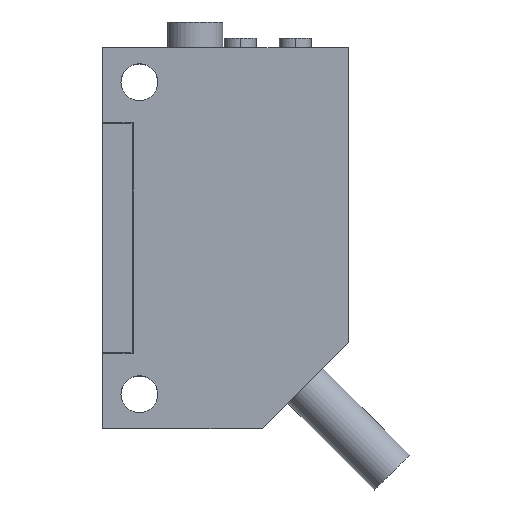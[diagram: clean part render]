
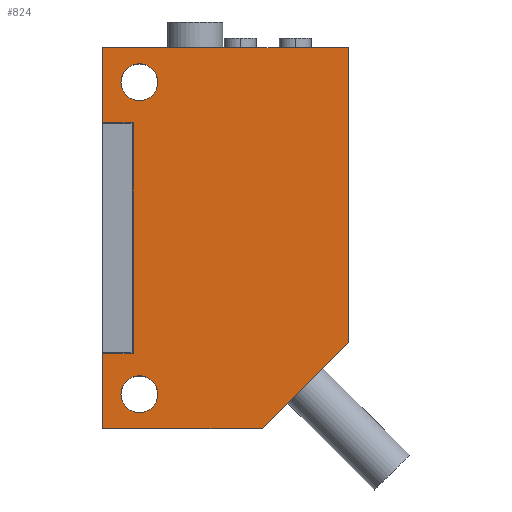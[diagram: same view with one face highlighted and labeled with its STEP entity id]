
A CAD part, top view. The second image highlights one B-rep face of the part: STEP entity #824.
In plain terms, the highlighted planar face has unit normal (0, 0, 1).
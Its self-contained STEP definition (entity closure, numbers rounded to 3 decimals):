
#38 = ORIENTED_EDGE ( 'NONE', *, *, #546, .T. ) ;
#55 = VERTEX_POINT ( 'NONE', #907 ) ;
#72 = EDGE_CURVE ( 'NONE', #100, #1191, #1024, .T. ) ;
#99 = VERTEX_POINT ( 'NONE', #1106 ) ;
#100 = VERTEX_POINT ( 'NONE', #1108 ) ;
#149 = ORIENTED_EDGE ( 'NONE', *, *, #1666, .T. ) ;
#164 = EDGE_CURVE ( 'NONE', #187, #1673, #1388, .T. ) ;
#187 = VERTEX_POINT ( 'NONE', #865 ) ;
#189 = VERTEX_POINT ( 'NONE', #890 ) ;
#190 = ORIENTED_EDGE ( 'NONE', *, *, #72, .F. ) ;
#194 = EDGE_CURVE ( 'NONE', #55, #277, #308, .T. ) ;
#211 = ORIENTED_EDGE ( 'NONE', *, *, #1575, .T. ) ;
#214 = ORIENTED_EDGE ( 'NONE', *, *, #194, .F. ) ;
#225 = EDGE_LOOP ( 'NONE', ( #917, #1287 ) ) ;
#231 = ORIENTED_EDGE ( 'NONE', *, *, #244, .F. ) ;
#243 = VERTEX_POINT ( 'NONE', #459 ) ;
#244 = EDGE_CURVE ( 'NONE', #189, #269, #460, .T. ) ;
#245 = VERTEX_POINT ( 'NONE', #466 ) ;
#253 = VERTEX_POINT ( 'NONE', #485 ) ;
#266 = EDGE_LOOP ( 'NONE', ( #231, #1645, #214, #38, #1626, #389, #149, #211, #1083 ) ) ;
#269 = VERTEX_POINT ( 'NONE', #554 ) ;
#270 = EDGE_LOOP ( 'NONE', ( #1009, #190 ) ) ;
#273 = EDGE_CURVE ( 'NONE', #243, #99, #561, .T. ) ;
#277 = VERTEX_POINT ( 'NONE', #577 ) ;
#308 = LINE ( 'NONE', #309, #310 ) ;
#309 = CARTESIAN_POINT ( 'NONE',  ( -3., 3.3, 5.4 ) ) ;
#310 = VECTOR ( 'NONE', #311, 1000. ) ;
#311 = DIRECTION ( 'NONE',  ( 1., 0., 0. ) ) ;
#389 = ORIENTED_EDGE ( 'NONE', *, *, #273, .T. ) ;
#459 = CARTESIAN_POINT ( 'NONE',  ( 10., -2.8, 5.4 ) ) ;
#460 = LINE ( 'NONE', #461, #462 ) ;
#461 = CARTESIAN_POINT ( 'NONE',  ( -3., 22.1, 5.4 ) ) ;
#462 = VECTOR ( 'NONE', #463, 1000. ) ;
#463 = DIRECTION ( 'NONE',  ( -1., 0., 0. ) ) ;
#466 = CARTESIAN_POINT ( 'NONE',  ( -3., 28.2, 5.4 ) ) ;
#484 = VERTEX_POINT ( 'NONE', #666 ) ;
#485 = CARTESIAN_POINT ( 'NONE',  ( 17., 28.2, 5.4 ) ) ;
#546 = EDGE_CURVE ( 'NONE', #55, #484, #704, .T. ) ;
#554 = CARTESIAN_POINT ( 'NONE',  ( -3., 22.1, 5.4 ) ) ;
#561 = LINE ( 'NONE', #562, #563 ) ;
#562 = CARTESIAN_POINT ( 'NONE',  ( 17., 4.2, 5.4 ) ) ;
#563 = VECTOR ( 'NONE', #567, 1000. ) ;
#567 = DIRECTION ( 'NONE',  ( 0.707, 0.707, 0. ) ) ;
#577 = CARTESIAN_POINT ( 'NONE',  ( -0.5, 3.3, 5.4 ) ) ;
#666 = CARTESIAN_POINT ( 'NONE',  ( -3., -2.8, 5.4 ) ) ;
#704 = LINE ( 'NONE', #705, #706 ) ;
#705 = CARTESIAN_POINT ( 'NONE',  ( -3., 28.2, 5.4 ) ) ;
#706 = VECTOR ( 'NONE', #707, 1000. ) ;
#707 = DIRECTION ( 'NONE',  ( 0., -1., 0. ) ) ;
#750 = CIRCLE ( 'NONE', #751, 1.5 ) ;
#751 = AXIS2_PLACEMENT_3D ( 'NONE', #752, #753, #754 ) ;
#752 = CARTESIAN_POINT ( 'NONE',  ( 0., 0., 5.4 ) ) ;
#753 = DIRECTION ( 'NONE',  ( 0., 0., 1. ) ) ;
#754 = DIRECTION ( 'NONE',  ( 1., 0., 0. ) ) ;
#767 = LINE ( 'NONE', #768, #769 ) ;
#768 = CARTESIAN_POINT ( 'NONE',  ( 17., 28.2, 5.4 ) ) ;
#769 = VECTOR ( 'NONE', #770, 1000. ) ;
#770 = DIRECTION ( 'NONE',  ( 0., 1., 0. ) ) ;
#824 = ADVANCED_FACE ( 'NONE', ( #908, #909, #910 ), #911, .T. ) ;
#865 = CARTESIAN_POINT ( 'NONE',  ( 1.5, 0., 5.4 ) ) ;
#883 = CARTESIAN_POINT ( 'NONE',  ( -1.5, 0., 5.4 ) ) ;
#890 = CARTESIAN_POINT ( 'NONE',  ( -0.5, 22.1, 5.4 ) ) ;
#899 = EDGE_CURVE ( 'NONE', #277, #189, #937, .T. ) ;
#907 = CARTESIAN_POINT ( 'NONE',  ( -3., 3.3, 5.4 ) ) ;
#908 = FACE_OUTER_BOUND ( 'NONE', #266, .T. ) ;
#909 = FACE_BOUND ( 'NONE', #270, .T. ) ;
#910 = FACE_BOUND ( 'NONE', #225, .T. ) ;
#911 = PLANE ( 'NONE',  #912 ) ;
#912 = AXIS2_PLACEMENT_3D ( 'NONE', #913, #914, #915 ) ;
#913 = CARTESIAN_POINT ( 'NONE',  ( -3., -2.8, 5.4 ) ) ;
#914 = DIRECTION ( 'NONE',  ( 0., 0., 1. ) ) ;
#915 = DIRECTION ( 'NONE',  ( 1., 0., 0. ) ) ;
#917 = ORIENTED_EDGE ( 'NONE', *, *, #164, .F. ) ;
#937 = LINE ( 'NONE', #938, #939 ) ;
#938 = CARTESIAN_POINT ( 'NONE',  ( -0.5, 22., 5.4 ) ) ;
#939 = VECTOR ( 'NONE', #940, 1000. ) ;
#940 = DIRECTION ( 'NONE',  ( 0., 1., 0. ) ) ;
#1003 = LINE ( 'NONE', #1004, #1005 ) ;
#1004 = CARTESIAN_POINT ( 'NONE',  ( -3., -2.8, 5.4 ) ) ;
#1005 = VECTOR ( 'NONE', #1006, 1000. ) ;
#1006 = DIRECTION ( 'NONE',  ( 1., 0., 0. ) ) ;
#1009 = ORIENTED_EDGE ( 'NONE', *, *, #1555, .F. ) ;
#1024 = CIRCLE ( 'NONE', #1025, 1.5 ) ;
#1025 = AXIS2_PLACEMENT_3D ( 'NONE', #1028, #1029, #1030 ) ;
#1028 = CARTESIAN_POINT ( 'NONE',  ( 0., 25.4, 5.4 ) ) ;
#1029 = DIRECTION ( 'NONE',  ( 0., 0., 1. ) ) ;
#1030 = DIRECTION ( 'NONE',  ( 1., 0., 0. ) ) ;
#1047 = CARTESIAN_POINT ( 'NONE',  ( 1.5, 25.4, 5.4 ) ) ;
#1083 = ORIENTED_EDGE ( 'NONE', *, *, #1554, .T. ) ;
#1106 = CARTESIAN_POINT ( 'NONE',  ( 17., 4.2, 5.4 ) ) ;
#1108 = CARTESIAN_POINT ( 'NONE',  ( -1.5, 25.4, 5.4 ) ) ;
#1191 = VERTEX_POINT ( 'NONE', #1047 ) ;
#1287 = ORIENTED_EDGE ( 'NONE', *, *, #1663, .F. ) ;
#1292 = LINE ( 'NONE', #1293, #1294 ) ;
#1293 = CARTESIAN_POINT ( 'NONE',  ( -3., 28.2, 5.4 ) ) ;
#1294 = VECTOR ( 'NONE', #1295, 1000. ) ;
#1295 = DIRECTION ( 'NONE',  ( 0., -1., 0. ) ) ;
#1296 = CIRCLE ( 'NONE', #1297, 1.5 ) ;
#1297 = AXIS2_PLACEMENT_3D ( 'NONE', #1298, #1299, #1300 ) ;
#1298 = CARTESIAN_POINT ( 'NONE',  ( 0., 25.4, 5.4 ) ) ;
#1299 = DIRECTION ( 'NONE',  ( 0., 0., 1. ) ) ;
#1300 = DIRECTION ( 'NONE',  ( 1., 0., 0. ) ) ;
#1388 = CIRCLE ( 'NONE', #1389, 1.5 ) ;
#1389 = AXIS2_PLACEMENT_3D ( 'NONE', #1390, #1391, #1392 ) ;
#1390 = CARTESIAN_POINT ( 'NONE',  ( 0., 0., 5.4 ) ) ;
#1391 = DIRECTION ( 'NONE',  ( 0., 0., 1. ) ) ;
#1392 = DIRECTION ( 'NONE',  ( 1., 0., 0. ) ) ;
#1399 = LINE ( 'NONE', #1400, #1401 ) ;
#1400 = CARTESIAN_POINT ( 'NONE',  ( -3., 28.2, 5.4 ) ) ;
#1401 = VECTOR ( 'NONE', #1402, 1000. ) ;
#1402 = DIRECTION ( 'NONE',  ( -1., 0., 0. ) ) ;
#1554 = EDGE_CURVE ( 'NONE', #245, #269, #1292, .T. ) ;
#1555 = EDGE_CURVE ( 'NONE', #1191, #100, #1296, .T. ) ;
#1575 = EDGE_CURVE ( 'NONE', #253, #245, #1399, .T. ) ;
#1626 = ORIENTED_EDGE ( 'NONE', *, *, #1687, .T. ) ;
#1645 = ORIENTED_EDGE ( 'NONE', *, *, #899, .F. ) ;
#1663 = EDGE_CURVE ( 'NONE', #1673, #187, #750, .T. ) ;
#1666 = EDGE_CURVE ( 'NONE', #99, #253, #767, .T. ) ;
#1673 = VERTEX_POINT ( 'NONE', #883 ) ;
#1687 = EDGE_CURVE ( 'NONE', #484, #243, #1003, .T. ) ;
